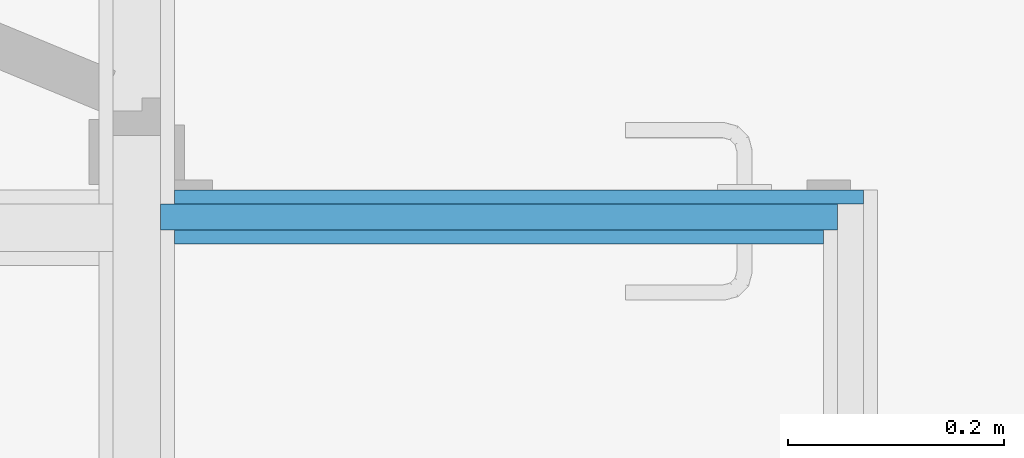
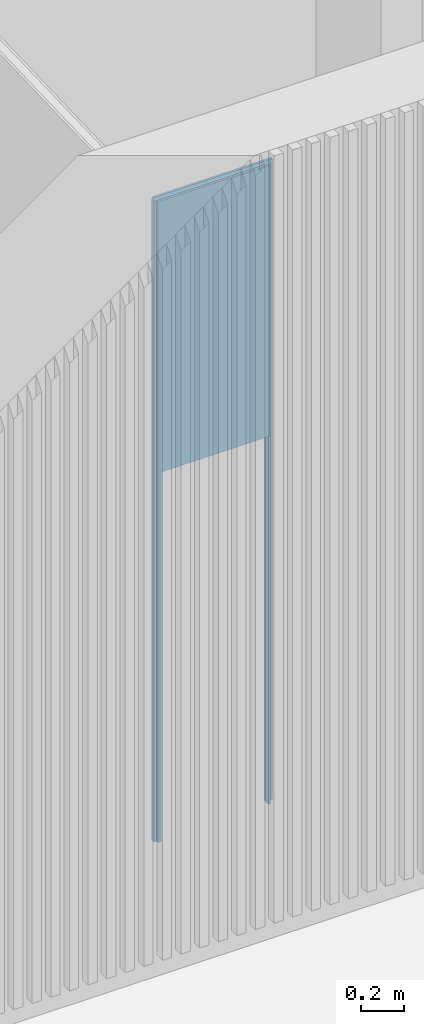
# One storey, part 27 of 34: 3 building element parts, 1 opening, 1 element without a shape of its own.
"""IFC2X3 building model written with IfcOpenShell, lengths in metres."""

from ifc_helpers import new_model, entity, si_unit, converted_unit, derived_unit, money_unit, direction, frame, origin_with_axes, origin_2d_with_axis, place, context, subcontext, project, spatial, polyline, rectangle, outline, extrude, boolean, faceted_brep, material, type_object, element, aggregate, save


model = new_model("IFC2X3")

# Units and contexts
model_context = context("Model", 3, precision=1e-05, world=origin_with_axes(), true_north=direction((0.0, 1.0)))
body_context = subcontext(model_context, "Body", "Model", "MODEL_VIEW")
ifc_project = project(units=[si_unit("LENGTHUNIT", "METRE"), si_unit("AREAUNIT", "SQUARE_METRE"), si_unit("VOLUMEUNIT", "CUBIC_METRE"), converted_unit("PLANEANGLEUNIT", "DEGREE", entity("IfcPlaneAngleMeasure", 0.0174532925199), si_unit("PLANEANGLEUNIT", "RADIAN"), dimensions=[0, 0, 0, 0, 0, 0, 0]), money_unit("CHF"), converted_unit("TIMEUNIT", "Year", entity("IfcTimeMeasure", 31556926.0), si_unit("TIMEUNIT", "SECOND"), dimensions=[0, 0, 1, 0, 0, 0, 0]), si_unit("MASSUNIT", "GRAM", prefix="KILO"), si_unit("THERMODYNAMICTEMPERATUREUNIT", "DEGREE_CELSIUS"), si_unit("LUMINOUSINTENSITYUNIT", "LUMEN"), si_unit("ENERGYUNIT", "JOULE", prefix="MEGA"), derived_unit("THERMALCONDUCTANCEUNIT", [(si_unit("POWERUNIT", "WATT"), 1), (si_unit("LENGTHUNIT", "METRE"), -1), (si_unit("THERMODYNAMICTEMPERATUREUNIT", "KELVIN"), -1)]), derived_unit("SPECIFICHEATCAPACITYUNIT", [(si_unit("ENERGYUNIT", "JOULE"), 1), (si_unit("MASSUNIT", "GRAM", prefix="KILO"), -1), (si_unit("THERMODYNAMICTEMPERATUREUNIT", "KELVIN"), -1)]), derived_unit("MASSDENSITYUNIT", [(si_unit("MASSUNIT", "GRAM", prefix="KILO"), 1), (si_unit("VOLUMEUNIT", "CUBIC_METRE"), -1)])], contexts=[model_context])

# Site, building, storey
site_placement = place(None, origin_with_axes())
site = spatial("IfcSite", under=ifc_project, at=site_placement, Name="Site", CompositionType="ELEMENT")
building_placement = place(site_placement, origin_with_axes())
building = spatial("IfcBuilding", under=site, at=building_placement, Name="Bâtiment", CompositionType="ELEMENT")
storey_placement = place(building_placement, origin_with_axes())
storey = spatial("IfcBuildingStorey", under=building, at=storey_placement, Name="Rez-de-chaussée", CompositionType="ELEMENT", Elevation=0.0)

# Wall, opening, building element parts
wall_type = type_object("IfcWallType", Name="Cloison 50 50", PredefinedType="NOTDEFINED")
wall_placement = place(storey_placement, frame((30.4994697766, 7.13012566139, 0.0), z_axis=(0.0, 0.0, 1.0), x_axis=(1.0, 0.0, 0.0)))
wall = element("IfcWall", 1, at=wall_placement, inside=storey, type_object=wall_type, Name="MUR_EXT-006")
opening_placement = place(wall_placement, frame((0.38, 0.0, 0.0), z_axis=(0.0, 0.0, 1.0), x_axis=(1.0, 0.0, 0.0)))
element("IfcOpeningElement", 2, at=opening_placement, cuts=wall, Name="PORTE-002", context=body_context, shape_type="SweptSolid", body=[
    extrude(rectangle(XDim=0.58, YDim=2.1, at=origin_2d_with_axis()), frame((0.0, -0.05, 1.05), z_axis=(0.0, -1.0, 0.0), x_axis=(-1.0, 0.0, 0.0)), (0.0, 0.0, -1.0), 0.15),
    extrude(rectangle(XDim=0.63, YDim=2.125, at=origin_2d_with_axis()), frame((0.0, 0.0, 1.0625), z_axis=(0.0, 1.0, 0.0), x_axis=(-1.0, 0.0, 0.0)), (0.0, 0.0, 1.0), 0.05),
])
ifc_material_1 = material(Name="Finition int - Plaque de plâtre")
building_element_part_1_placement = place(wall_placement, origin_with_axes())
building_element_part_1 = element("IfcBuildingElementPart", 3, at=building_element_part_1_placement, material=ifc_material_1, Name="Finition int - Plaque de plâtre", context=body_context, shape_type="CSG", body=[
    boolean("DIFFERENCE", boolean("DIFFERENCE", boolean("DIFFERENCE", extrude(outline(polyline([(0.0, -0.013), (0.72, -0.013), (0.72, 0.0), (0.0, 0.0), (0.0, -0.013)])), origin_with_axes(), (0.0, 0.0, 1.0), 4.0), faceted_brep([(0.07, 0.0, 3.64305439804), (0.07, 0.0, 0.0), (0.0, 0.0, 0.0), (0.0, 0.0, 4.0), (0.72, 0.0, 4.0), (0.72, 0.0, 0.0), (0.707, 0.0, 0.0), (0.707, 0.0, 3.64305439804), (0.07, -0.013, 3.64259939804), (0.07, -0.013, 0.0), (0.0, -0.013, 0.0), (0.0, -0.013, 4.0), (0.72, -0.013, 4.0), (0.72, -0.013, 0.0), (0.707, -0.013, 0.0), (0.707, -0.013, 3.64259939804), (0.683, -0.013, 3.64259939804)], [[[0, 1, 2, 3, 4, 5, 6, 7]], [[1, 0, 8, 9]], [[1, 9, 10, 2]], [[3, 2, 10, 11]], [[3, 11, 12, 4]], [[12, 13, 5, 4]], [[14, 6, 5, 13]], [[7, 6, 14, 15]], [[0, 7, 15, 16, 8]], [[15, 14, 13, 12, 11, 10, 9, 8, 16]]])), faceted_brep([(0.057, -0.013, 3.64259939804), (0.057, -0.013, 0.0), (0.0, -0.013, 0.0), (0.0, -0.013, 4.0), (0.72, -0.013, 4.0), (0.72, -0.013, 0.0), (0.683, -0.013, 0.0), (0.683, -0.013, 3.64259939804), (0.07, -0.013, 3.64259939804), (0.057, -0.037, 3.64175939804), (0.057, -0.037, 0.0), (0.0, -0.037, 0.0), (0.0, -0.037, 4.0), (0.72, -0.037, 4.0), (0.72, -0.037, 0.0), (0.683, -0.037, 0.0), (0.683, -0.037, 3.64175939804), (0.67, -0.037, 3.64175939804), (0.07, -0.037, 3.64175939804)], [[[0, 1, 2, 3, 4, 5, 6, 7, 8]], [[1, 0, 9, 10]], [[1, 10, 11, 2]], [[3, 2, 11, 12]], [[3, 12, 13, 4]], [[13, 14, 5, 4]], [[15, 6, 5, 14]], [[7, 6, 15, 16]], [[8, 7, 16, 17, 18, 9, 0]], [[16, 15, 14, 13, 12, 11, 10, 9, 18, 17]]])), faceted_brep([(0.07, -0.037, 3.64175939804), (0.07, -0.037, 0.0), (0.0, -0.037, 0.0), (0.0, -0.037, 4.0), (0.72, -0.037, 4.0), (0.72, -0.037, 0.0), (0.67, -0.037, 0.0), (0.67, -0.037, 3.64175939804), (0.07, -0.05, 3.64130439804), (0.07, -0.05, 0.0), (0.0, -0.05, 0.0), (0.0, -0.05, 4.0), (0.72, -0.05, 4.0), (0.72, -0.05, 0.0), (0.67, -0.05, 0.0), (0.67, -0.05, 3.64130439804)], [[[0, 1, 2, 3, 4, 5, 6, 7]], [[1, 0, 8, 9]], [[1, 9, 10, 2]], [[3, 2, 10, 11]], [[3, 11, 12, 4]], [[12, 13, 5, 4]], [[14, 6, 5, 13]], [[7, 6, 14, 15]], [[0, 7, 15, 8]], [[15, 14, 13, 12, 11, 10, 9, 8]]])),
])
ifc_material_2 = material(Name="Isolation - Laine de verre")
building_element_part_2_placement = place(wall_placement, origin_with_axes())
building_element_part_2 = element("IfcBuildingElementPart", 4, at=building_element_part_2_placement, material=ifc_material_2, Name="Isolation - Laine de verre", context=body_context, shape_type="CSG", body=[
    boolean("DIFFERENCE", boolean("DIFFERENCE", boolean("DIFFERENCE", extrude(outline(polyline([(0.0, -0.037), (0.72, -0.037), (0.72, -0.013), (0.0, -0.013), (0.0, -0.037)])), origin_with_axes(), (0.0, 0.0, 1.0), 4.0), faceted_brep([(0.07, 0.0, 3.64305439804), (0.07, 0.0, 0.0), (0.0, 0.0, 0.0), (0.0, 0.0, 4.0), (0.72, 0.0, 4.0), (0.72, 0.0, 0.0), (0.707, 0.0, 0.0), (0.707, 0.0, 3.64305439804), (0.07, -0.013, 3.64259939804), (0.07, -0.013, 0.0), (0.0, -0.013, 0.0), (0.0, -0.013, 4.0), (0.72, -0.013, 4.0), (0.72, -0.013, 0.0), (0.707, -0.013, 0.0), (0.707, -0.013, 3.64259939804), (0.683, -0.013, 3.64259939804)], [[[0, 1, 2, 3, 4, 5, 6, 7]], [[1, 0, 8, 9]], [[1, 9, 10, 2]], [[3, 2, 10, 11]], [[3, 11, 12, 4]], [[12, 13, 5, 4]], [[14, 6, 5, 13]], [[7, 6, 14, 15]], [[0, 7, 15, 16, 8]], [[15, 14, 13, 12, 11, 10, 9, 8, 16]]])), faceted_brep([(0.057, -0.013, 3.64259939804), (0.057, -0.013, 0.0), (0.0, -0.013, 0.0), (0.0, -0.013, 4.0), (0.72, -0.013, 4.0), (0.72, -0.013, 0.0), (0.683, -0.013, 0.0), (0.683, -0.013, 3.64259939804), (0.07, -0.013, 3.64259939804), (0.057, -0.037, 3.64175939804), (0.057, -0.037, 0.0), (0.0, -0.037, 0.0), (0.0, -0.037, 4.0), (0.72, -0.037, 4.0), (0.72, -0.037, 0.0), (0.683, -0.037, 0.0), (0.683, -0.037, 3.64175939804), (0.67, -0.037, 3.64175939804), (0.07, -0.037, 3.64175939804)], [[[0, 1, 2, 3, 4, 5, 6, 7, 8]], [[1, 0, 9, 10]], [[1, 10, 11, 2]], [[3, 2, 11, 12]], [[3, 12, 13, 4]], [[13, 14, 5, 4]], [[15, 6, 5, 14]], [[7, 6, 15, 16]], [[8, 7, 16, 17, 18, 9, 0]], [[16, 15, 14, 13, 12, 11, 10, 9, 18, 17]]])), faceted_brep([(0.07, -0.037, 3.64175939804), (0.07, -0.037, 0.0), (0.0, -0.037, 0.0), (0.0, -0.037, 4.0), (0.72, -0.037, 4.0), (0.72, -0.037, 0.0), (0.67, -0.037, 0.0), (0.67, -0.037, 3.64175939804), (0.07, -0.05, 3.64130439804), (0.07, -0.05, 0.0), (0.0, -0.05, 0.0), (0.0, -0.05, 4.0), (0.72, -0.05, 4.0), (0.72, -0.05, 0.0), (0.67, -0.05, 0.0), (0.67, -0.05, 3.64130439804)], [[[0, 1, 2, 3, 4, 5, 6, 7]], [[1, 0, 8, 9]], [[1, 9, 10, 2]], [[3, 2, 10, 11]], [[3, 11, 12, 4]], [[12, 13, 5, 4]], [[14, 6, 5, 13]], [[7, 6, 14, 15]], [[0, 7, 15, 8]], [[15, 14, 13, 12, 11, 10, 9, 8]]])),
])
building_element_part_3_placement = place(wall_placement, origin_with_axes())
building_element_part_3 = element("IfcBuildingElementPart", 5, at=building_element_part_3_placement, material=ifc_material_1, Name="Finition int - Plaque de plâtre", context=body_context, shape_type="CSG", body=[
    boolean("DIFFERENCE", boolean("DIFFERENCE", boolean("DIFFERENCE", extrude(outline(polyline([(0.0, -0.05), (0.72, -0.05), (0.72, -0.037), (0.0, -0.037), (0.0, -0.05)])), origin_with_axes(), (0.0, 0.0, 1.0), 4.0), faceted_brep([(0.07, 0.0, 3.64305439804), (0.07, 0.0, 0.0), (0.0, 0.0, 0.0), (0.0, 0.0, 4.0), (0.72, 0.0, 4.0), (0.72, 0.0, 0.0), (0.707, 0.0, 0.0), (0.707, 0.0, 3.64305439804), (0.07, -0.013, 3.64259939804), (0.07, -0.013, 0.0), (0.0, -0.013, 0.0), (0.0, -0.013, 4.0), (0.72, -0.013, 4.0), (0.72, -0.013, 0.0), (0.707, -0.013, 0.0), (0.707, -0.013, 3.64259939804), (0.683, -0.013, 3.64259939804)], [[[0, 1, 2, 3, 4, 5, 6, 7]], [[1, 0, 8, 9]], [[1, 9, 10, 2]], [[3, 2, 10, 11]], [[3, 11, 12, 4]], [[12, 13, 5, 4]], [[14, 6, 5, 13]], [[7, 6, 14, 15]], [[0, 7, 15, 16, 8]], [[15, 14, 13, 12, 11, 10, 9, 8, 16]]])), faceted_brep([(0.057, -0.013, 3.64259939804), (0.057, -0.013, 0.0), (0.0, -0.013, 0.0), (0.0, -0.013, 4.0), (0.72, -0.013, 4.0), (0.72, -0.013, 0.0), (0.683, -0.013, 0.0), (0.683, -0.013, 3.64259939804), (0.07, -0.013, 3.64259939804), (0.057, -0.037, 3.64175939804), (0.057, -0.037, 0.0), (0.0, -0.037, 0.0), (0.0, -0.037, 4.0), (0.72, -0.037, 4.0), (0.72, -0.037, 0.0), (0.683, -0.037, 0.0), (0.683, -0.037, 3.64175939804), (0.67, -0.037, 3.64175939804), (0.07, -0.037, 3.64175939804)], [[[0, 1, 2, 3, 4, 5, 6, 7, 8]], [[1, 0, 9, 10]], [[1, 10, 11, 2]], [[3, 2, 11, 12]], [[3, 12, 13, 4]], [[13, 14, 5, 4]], [[15, 6, 5, 14]], [[7, 6, 15, 16]], [[8, 7, 16, 17, 18, 9, 0]], [[16, 15, 14, 13, 12, 11, 10, 9, 18, 17]]])), faceted_brep([(0.07, -0.037, 3.64175939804), (0.07, -0.037, 0.0), (0.0, -0.037, 0.0), (0.0, -0.037, 4.0), (0.72, -0.037, 4.0), (0.72, -0.037, 0.0), (0.67, -0.037, 0.0), (0.67, -0.037, 3.64175939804), (0.07, -0.05, 3.64130439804), (0.07, -0.05, 0.0), (0.0, -0.05, 0.0), (0.0, -0.05, 4.0), (0.72, -0.05, 4.0), (0.72, -0.05, 0.0), (0.67, -0.05, 0.0), (0.67, -0.05, 3.64130439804)], [[[0, 1, 2, 3, 4, 5, 6, 7]], [[1, 0, 8, 9]], [[1, 9, 10, 2]], [[3, 2, 10, 11]], [[3, 11, 12, 4]], [[12, 13, 5, 4]], [[14, 6, 5, 13]], [[7, 6, 14, 15]], [[0, 7, 15, 8]], [[15, 14, 13, 12, 11, 10, 9, 8]]])),
])
aggregate(wall, [building_element_part_1, building_element_part_2, building_element_part_3])

save(model, "model.ifc")
